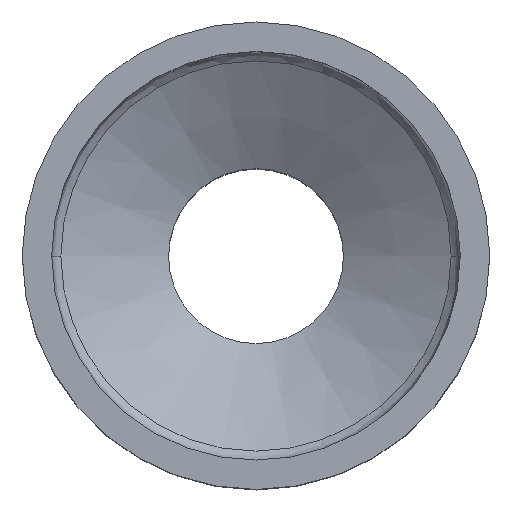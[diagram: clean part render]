
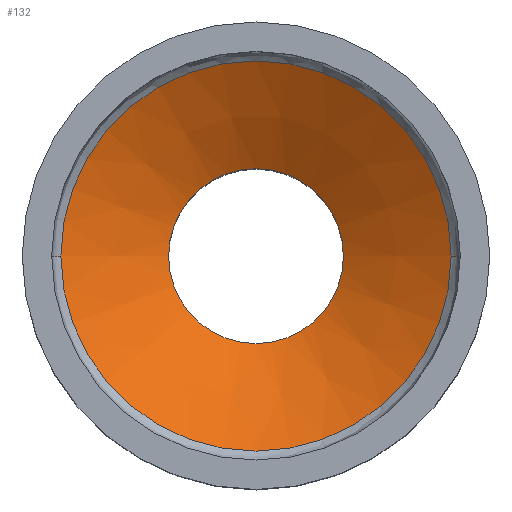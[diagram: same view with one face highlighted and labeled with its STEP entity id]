
A CAD part, top view. The second image highlights one B-rep face of the part: STEP entity #132.
In plain terms, the highlighted conical face has half-angle 60 degrees and reference radius 4.75 mm.
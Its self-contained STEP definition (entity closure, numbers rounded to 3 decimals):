
#10 = FACE_OUTER_BOUND ( 'NONE', #492, .T. ) ;
#23 = FACE_BOUND ( 'NONE', #494, .T. ) ;
#56 = AXIS2_PLACEMENT_3D ( 'NONE', #377, #376, #375 ) ;
#66 = AXIS2_PLACEMENT_3D ( 'NONE', #384, #387, #386 ) ;
#87 = AXIS2_PLACEMENT_3D ( 'NONE', #207, #206, #360 ) ;
#106 = AXIS2_PLACEMENT_3D ( 'NONE', #234, #233, #232 ) ;
#132 = ADVANCED_FACE ( 'NONE', ( #10, #23 ), #169, .F. ) ;
#141 = EDGE_CURVE ( 'NONE', #499, #501, #170, .T. ) ;
#151 = EDGE_CURVE ( 'NONE', #501, #499, #178, .T. ) ;
#159 = EDGE_CURVE ( 'NONE', #441, #441, #185, .T. ) ;
#169 = CONICAL_SURFACE ( 'NONE', #106, 4.75, 1.047 ) ;
#170 = CIRCLE ( 'NONE', #87, 10.6 ) ;
#178 = CIRCLE ( 'NONE', #66, 10.6 ) ;
#185 = CIRCLE ( 'NONE', #56, 4.75 ) ;
#206 = DIRECTION ( 'NONE',  ( 0., 0., 1. ) ) ;
#207 = CARTESIAN_POINT ( 'NONE',  ( 0., 0., -8.366 ) ) ;
#232 = DIRECTION ( 'NONE',  ( 0., -1., 0. ) ) ;
#233 = DIRECTION ( 'NONE',  ( 0., 0., 1. ) ) ;
#234 = CARTESIAN_POINT ( 'NONE',  ( 0., 0., -11.744 ) ) ;
#325 = ORIENTED_EDGE ( 'NONE', *, *, #141, .T. ) ;
#360 = DIRECTION ( 'NONE',  ( 0., -1., 0. ) ) ;
#375 = DIRECTION ( 'NONE',  ( 1., 0., 0. ) ) ;
#376 = DIRECTION ( 'NONE',  ( 0., 0., -1. ) ) ;
#377 = CARTESIAN_POINT ( 'NONE',  ( 0., 0., -11.744 ) ) ;
#384 = CARTESIAN_POINT ( 'NONE',  ( 0., 0., -8.366 ) ) ;
#386 = DIRECTION ( 'NONE',  ( 0., -1., 0. ) ) ;
#387 = DIRECTION ( 'NONE',  ( 0., 0., 1. ) ) ;
#440 = CARTESIAN_POINT ( 'NONE',  ( 4.75, 0., -11.744 ) ) ;
#441 = VERTEX_POINT ( 'NONE', #440 ) ;
#492 = EDGE_LOOP ( 'NONE', ( #325, #512 ) ) ;
#494 = EDGE_LOOP ( 'NONE', ( #535 ) ) ;
#499 = VERTEX_POINT ( 'NONE', #565 ) ;
#501 = VERTEX_POINT ( 'NONE', #561 ) ;
#512 = ORIENTED_EDGE ( 'NONE', *, *, #151, .T. ) ;
#535 = ORIENTED_EDGE ( 'NONE', *, *, #159, .T. ) ;
#561 = CARTESIAN_POINT ( 'NONE',  ( -10.6, 0., -8.366 ) ) ;
#565 = CARTESIAN_POINT ( 'NONE',  ( 10.6, 0., -8.366 ) ) ;
